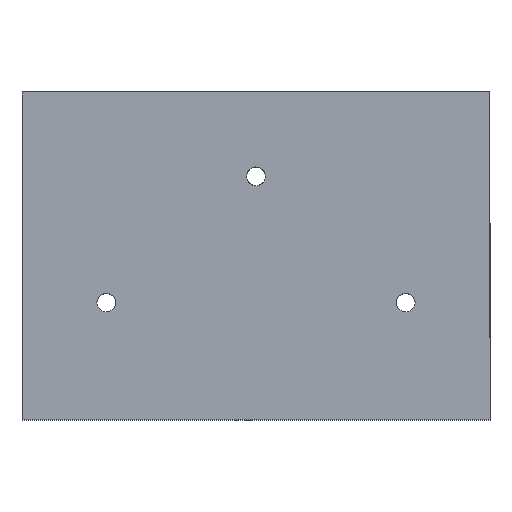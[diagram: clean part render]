
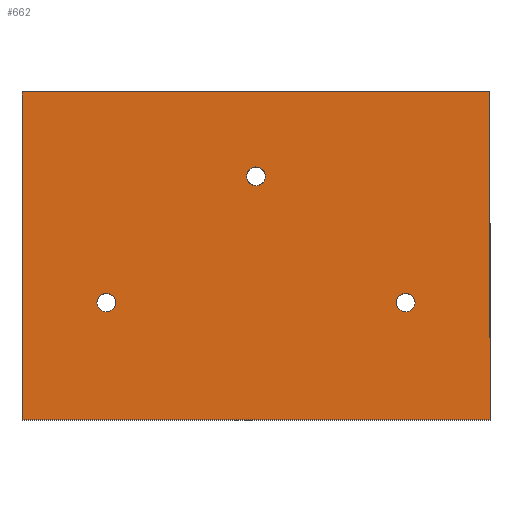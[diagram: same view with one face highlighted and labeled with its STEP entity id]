
A CAD part, top view. The second image highlights one B-rep face of the part: STEP entity #662.
In plain terms, the highlighted planar face has unit normal (0, 0, 1).
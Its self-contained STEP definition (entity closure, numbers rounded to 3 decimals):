
#1 = AXIS2_PLACEMENT_3D ( 'NONE', #200, #700, #1210 ) ;
#36 = CARTESIAN_POINT ( 'NONE',  ( 25., 17.5, 12.5 ) ) ;
#66 = CARTESIAN_POINT ( 'NONE',  ( -25., 17.5, 12.5 ) ) ;
#84 = VERTEX_POINT ( 'NONE', #406 ) ;
#89 = CARTESIAN_POINT ( 'NONE',  ( 0., 8.5, 12.5 ) ) ;
#99 = ORIENTED_EDGE ( 'NONE', *, *, #1369, .T. ) ;
#120 = EDGE_LOOP ( 'NONE', ( #1313, #466 ) ) ;
#133 = ORIENTED_EDGE ( 'NONE', *, *, #387, .T. ) ;
#136 = CARTESIAN_POINT ( 'NONE',  ( -25., -17.5, 12.5 ) ) ;
#138 = CARTESIAN_POINT ( 'NONE',  ( 0., 8.5, 12.5 ) ) ;
#147 = VECTOR ( 'NONE', #753, 1000. ) ;
#172 = AXIS2_PLACEMENT_3D ( 'NONE', #452, #992, #728 ) ;
#174 = CARTESIAN_POINT ( 'NONE',  ( 16., -5., 12.5 ) ) ;
#177 = LINE ( 'NONE', #681, #539 ) ;
#180 = EDGE_CURVE ( 'NONE', #1126, #1503, #430, .T. ) ;
#195 = VECTOR ( 'NONE', #1566, 1000. ) ;
#200 = CARTESIAN_POINT ( 'NONE',  ( -16., -5., 12.5 ) ) ;
#257 = VERTEX_POINT ( 'NONE', #1343 ) ;
#295 = EDGE_CURVE ( 'NONE', #84, #1233, #1120, .T. ) ;
#300 = DIRECTION ( 'NONE',  ( 0., 0., 1. ) ) ;
#304 = CARTESIAN_POINT ( 'NONE',  ( -16., -5., 12.5 ) ) ;
#325 = VERTEX_POINT ( 'NONE', #760 ) ;
#331 = DIRECTION ( 'NONE',  ( 0., 0., 1. ) ) ;
#387 = EDGE_CURVE ( 'NONE', #585, #996, #1238, .T. ) ;
#390 = LINE ( 'NONE', #136, #1586 ) ;
#406 = CARTESIAN_POINT ( 'NONE',  ( -1., 8.5, 12.5 ) ) ;
#419 = FACE_BOUND ( 'NONE', #597, .T. ) ;
#430 = CIRCLE ( 'NONE', #1482, 1. ) ;
#452 = CARTESIAN_POINT ( 'NONE',  ( 16., -5., 12.5 ) ) ;
#460 = CIRCLE ( 'NONE', #172, 1. ) ;
#466 = ORIENTED_EDGE ( 'NONE', *, *, #295, .F. ) ;
#480 = VERTEX_POINT ( 'NONE', #66 ) ;
#487 = CIRCLE ( 'NONE', #1018, 1. ) ;
#539 = VECTOR ( 'NONE', #776, 1000. ) ;
#585 = VERTEX_POINT ( 'NONE', #709 ) ;
#586 = DIRECTION ( 'NONE',  ( 0., 0., 1. ) ) ;
#597 = EDGE_LOOP ( 'NONE', ( #1381, #1467 ) ) ;
#611 = VERTEX_POINT ( 'NONE', #1504 ) ;
#662 = ADVANCED_FACE ( 'NONE', ( #950, #1549, #419, #677 ), #695, .T. ) ;
#677 = FACE_OUTER_BOUND ( 'NONE', #960, .T. ) ;
#681 = CARTESIAN_POINT ( 'NONE',  ( -25., 17.5, 12.5 ) ) ;
#695 = PLANE ( 'NONE',  #1149 ) ;
#700 = DIRECTION ( 'NONE',  ( 0., 0., 1. ) ) ;
#702 = CARTESIAN_POINT ( 'NONE',  ( 17., -5., 12.5 ) ) ;
#709 = CARTESIAN_POINT ( 'NONE',  ( 25., -17.5, 12.5 ) ) ;
#715 = ORIENTED_EDGE ( 'NONE', *, *, #720, .T. ) ;
#720 = EDGE_CURVE ( 'NONE', #996, #480, #1071, .T. ) ;
#728 = DIRECTION ( 'NONE',  ( 1., 0., 0. ) ) ;
#753 = DIRECTION ( 'NONE',  ( 0., 1., 0. ) ) ;
#760 = CARTESIAN_POINT ( 'NONE',  ( -25., -17.5, 12.5 ) ) ;
#776 = DIRECTION ( 'NONE',  ( 0., -1., 0. ) ) ;
#777 = CIRCLE ( 'NONE', #941, 1. ) ;
#792 = DIRECTION ( 'NONE',  ( 1., 0., 0. ) ) ;
#797 = EDGE_CURVE ( 'NONE', #1503, #1126, #460, .T. ) ;
#925 = DIRECTION ( 'NONE',  ( -1., 0., 0. ) ) ;
#932 = AXIS2_PLACEMENT_3D ( 'NONE', #138, #1362, #1125 ) ;
#935 = DIRECTION ( 'NONE',  ( 0., 0., 1. ) ) ;
#941 = AXIS2_PLACEMENT_3D ( 'NONE', #89, #586, #1427 ) ;
#942 = CARTESIAN_POINT ( 'NONE',  ( 0., 0., 12.5 ) ) ;
#950 = FACE_BOUND ( 'NONE', #120, .T. ) ;
#960 = EDGE_LOOP ( 'NONE', ( #133, #715, #99, #1190 ) ) ;
#992 = DIRECTION ( 'NONE',  ( 0., 0., 1. ) ) ;
#994 = ORIENTED_EDGE ( 'NONE', *, *, #180, .F. ) ;
#996 = VERTEX_POINT ( 'NONE', #36 ) ;
#1018 = AXIS2_PLACEMENT_3D ( 'NONE', #304, #935, #925 ) ;
#1071 = LINE ( 'NONE', #1194, #195 ) ;
#1120 = CIRCLE ( 'NONE', #932, 1. ) ;
#1125 = DIRECTION ( 'NONE',  ( 1., 0., 0. ) ) ;
#1126 = VERTEX_POINT ( 'NONE', #702 ) ;
#1134 = CARTESIAN_POINT ( 'NONE',  ( 25., 17.5, 12.5 ) ) ;
#1144 = ORIENTED_EDGE ( 'NONE', *, *, #797, .F. ) ;
#1149 = AXIS2_PLACEMENT_3D ( 'NONE', #942, #300, #792 ) ;
#1174 = CIRCLE ( 'NONE', #1, 1. ) ;
#1190 = ORIENTED_EDGE ( 'NONE', *, *, #1208, .T. ) ;
#1194 = CARTESIAN_POINT ( 'NONE',  ( -25., 17.5, 12.5 ) ) ;
#1200 = CARTESIAN_POINT ( 'NONE',  ( 15., -5., 12.5 ) ) ;
#1208 = EDGE_CURVE ( 'NONE', #325, #585, #390, .T. ) ;
#1210 = DIRECTION ( 'NONE',  ( -1., 0., 0. ) ) ;
#1233 = VERTEX_POINT ( 'NONE', #1263 ) ;
#1238 = LINE ( 'NONE', #1134, #147 ) ;
#1244 = DIRECTION ( 'NONE',  ( 1., 0., 0. ) ) ;
#1263 = CARTESIAN_POINT ( 'NONE',  ( 1., 8.5, 12.5 ) ) ;
#1313 = ORIENTED_EDGE ( 'NONE', *, *, #1603, .F. ) ;
#1335 = DIRECTION ( 'NONE',  ( 1., 0., 0. ) ) ;
#1337 = EDGE_CURVE ( 'NONE', #257, #611, #487, .T. ) ;
#1343 = CARTESIAN_POINT ( 'NONE',  ( -15., -5., 12.5 ) ) ;
#1362 = DIRECTION ( 'NONE',  ( 0., 0., 1. ) ) ;
#1369 = EDGE_CURVE ( 'NONE', #480, #325, #177, .T. ) ;
#1381 = ORIENTED_EDGE ( 'NONE', *, *, #1337, .F. ) ;
#1412 = EDGE_LOOP ( 'NONE', ( #994, #1144 ) ) ;
#1427 = DIRECTION ( 'NONE',  ( 1., 0., 0. ) ) ;
#1467 = ORIENTED_EDGE ( 'NONE', *, *, #1591, .F. ) ;
#1482 = AXIS2_PLACEMENT_3D ( 'NONE', #174, #331, #1335 ) ;
#1503 = VERTEX_POINT ( 'NONE', #1200 ) ;
#1504 = CARTESIAN_POINT ( 'NONE',  ( -17., -5., 12.5 ) ) ;
#1549 = FACE_BOUND ( 'NONE', #1412, .T. ) ;
#1566 = DIRECTION ( 'NONE',  ( -1., 0., 0. ) ) ;
#1586 = VECTOR ( 'NONE', #1244, 1000. ) ;
#1591 = EDGE_CURVE ( 'NONE', #611, #257, #1174, .T. ) ;
#1603 = EDGE_CURVE ( 'NONE', #1233, #84, #777, .T. ) ;
